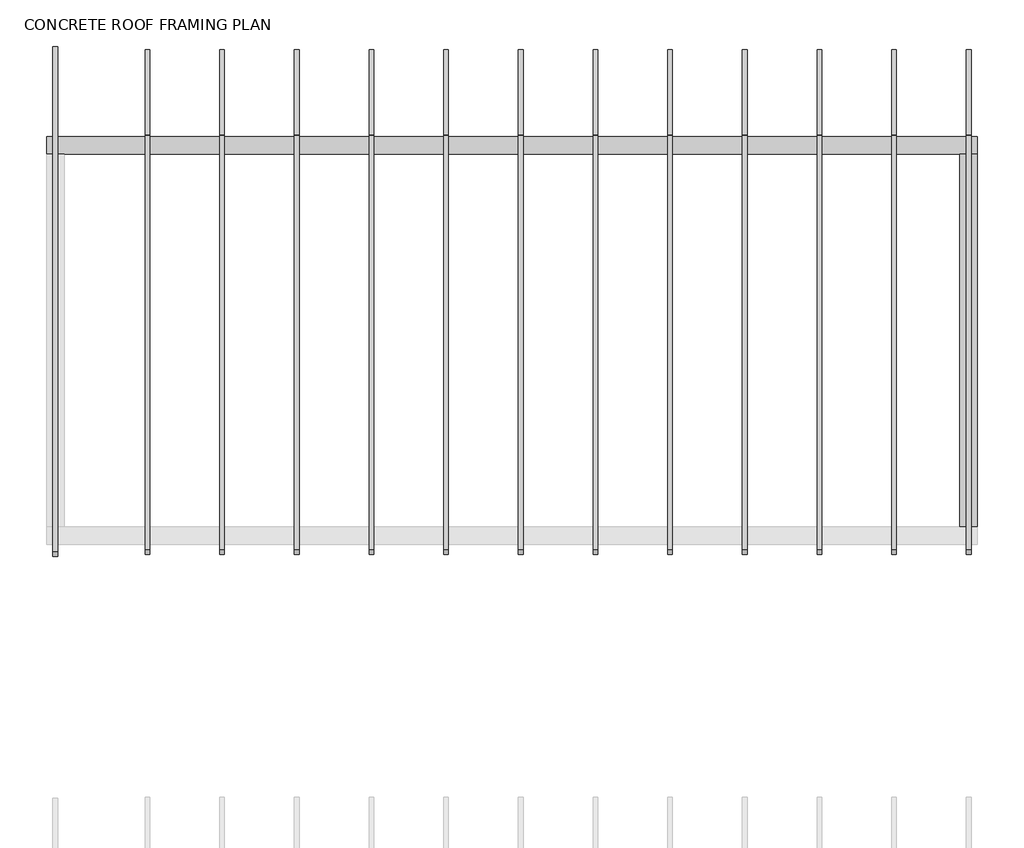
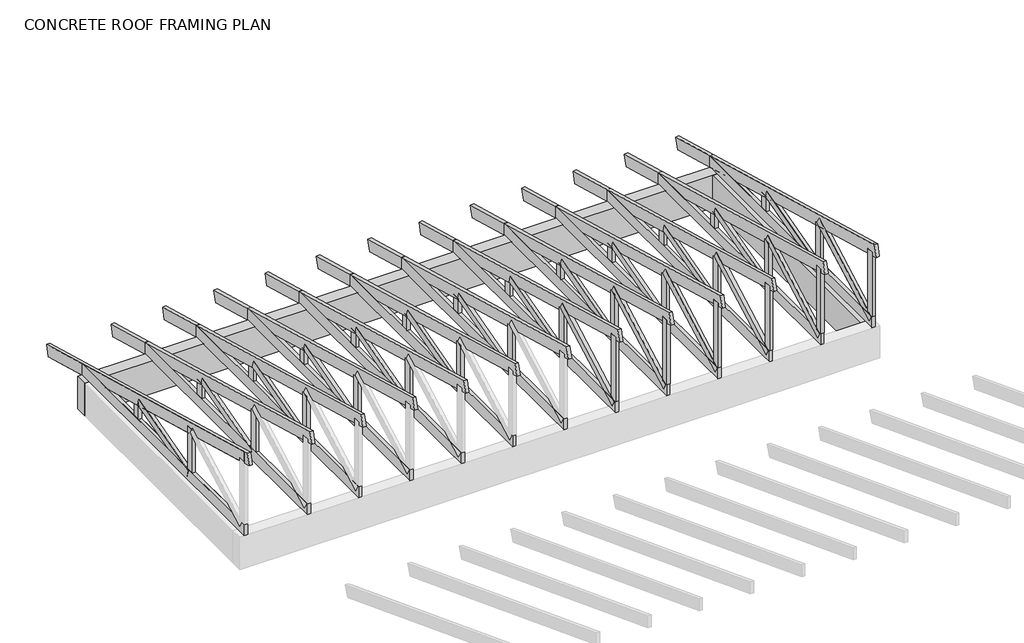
# One storey, part 6 of 6: 79 beams.
"""IFC4 building model written with IfcOpenShell, lengths in millimetres."""

from ifc_helpers import new_model, si_unit, frame, origin, place, context, project, spatial, polyline, outline, extrude, faceted_brep, element, save

model = new_model("IFC4")

# Units and contexts
model_context = context("Model", 3, world=origin())
ifc_project = project(units=[si_unit("LENGTHUNIT", "METRE", prefix="MILLI")], contexts=[model_context])

# Site, building, storey
site = spatial("IfcSite", under=ifc_project)
building = spatial("IfcBuilding", under=site)
storey = spatial("IfcBuildingStorey", under=building, Name="CONCRETE ROOF FRAMING PLAN", Elevation=3048.0)

# Beams
placement = place(None, origin())
element("IfcBeam", 1, ObjectType="Concrete-Rectangular Beam : 5 5/8 x 16", at=placement, inside=storey, context=model_context, shape_type="Brep", body=[
    faceted_brep([(9.525, 12474.1132667, 2438.4), (9.525, 12331.2382667, 2438.4), (152.4, 12331.2382667, 2438.4), (7467.6, 12331.2382667, 2438.4), (7610.475, 12331.2382667, 2438.4), (7610.475, 12474.1132667, 2438.4), (9.525, 12474.1132667, 2032.0), (7610.475, 12474.1132667, 2032.0), (7467.6, 12474.1132667, 2032.0), (9.525, 12331.2382667, 2032.0), (7610.475, 12331.2382667, 2032.0), (7467.6, 12331.2382667, 2032.0), (152.4, 12331.2382667, 2032.0)], [[[0, 1, 2, 3, 4, 5]], [[6, 0, 5, 7, 8]], [[9, 6, 8, 7, 10, 11, 12]], [[1, 9, 12, 11, 10, 4, 3, 2]], [[1, 0, 6, 9]], [[5, 4, 10, 7]]]),
])
element("IfcBeam", 2, ObjectType="Concrete-Rectangular Beam : 5 5/8 x 16", at=placement, inside=storey, context=model_context, shape_type="Brep", body=[
    faceted_brep([(7467.6, 9283.2382667, 2438.4), (7610.475, 9283.2382667, 2438.4), (7610.475, 12331.2382667, 2438.4), (7467.6, 12331.2382667, 2438.4), (7467.6, 9283.2382667, 2032.0), (7467.6, 9283.2382667, 2032.4732556), (7467.6, 12331.2382667, 2032.0), (7610.475, 9283.2382667, 2032.0), (7610.475, 12331.2382667, 2032.0)], [[[0, 1, 2, 3]], [[4, 5, 0, 3, 6]], [[7, 4, 6, 8]], [[1, 7, 8, 2]], [[0, 5, 4, 7, 1]], [[3, 2, 8, 6]]]),
])
element("IfcBeam", 3, ObjectType="Dimension Lumber : 2x4", at=placement, inside=storey, context=model_context, shape_type="SweptSolid", body=[
    extrude(outline(polyline([(61.9125, 10300.2966), (100.0125, 10300.2966), (100.0125, 10211.3966), (61.9125, 10211.3966), (61.9125, 10300.2966)])), frame((0.0, 0.0, 2578.1), z_axis=(0.0, 0.0, 1.0), x_axis=(1.0, 0.0, 0.0)), (0.0, 0.0, 1.0), 539.75),
    extrude(outline(polyline([(10300.2966, 3033.195195), (10300.2966, 2578.1), (10211.3966, 2578.1), (10211.3966, 3057.6257293), (10300.2966, 3033.195195)])), frame((61.9125, 0.0, 0.0), z_axis=(1.0, 0.0, 0.0), x_axis=(0.0, 1.0, 0.0)), (0.0, 0.0, 1.0), 38.1),
])
element("IfcBeam", 4, ObjectType="Dimension Lumber : 2x4", at=placement, inside=storey, context=model_context, shape_type="SweptSolid", body=[
    extrude(outline(polyline([(61.9125, 11409.4299334), (100.0125, 11409.4299334), (100.0125, 11320.5299334), (61.9125, 11320.5299334), (61.9125, 11409.4299334)])), frame((0.0, 0.0, 2578.1), z_axis=(0.0, 0.0, 1.0), x_axis=(1.0, 0.0, 0.0)), (0.0, 0.0, 1.0), 216.661743),
    extrude(outline(polyline([(11409.4299334, 2728.395195), (11409.4299334, 2578.1), (11320.5299334, 2578.1), (11320.5299334, 2752.8257293), (11409.4299334, 2728.395195)])), frame((61.9125, 0.0, 0.0), z_axis=(1.0, 0.0, 0.0), x_axis=(0.0, 1.0, 0.0)), (0.0, 0.0, 1.0), 38.1),
])
element("IfcBeam", 5, ObjectType="Dimension Lumber : 2x4", at=placement, inside=storey, context=model_context, shape_type="SweptSolid", body=[
    extrude(outline(polyline([(0.0, 38.1), (1058.0562801, 38.1), (1058.0562801, 0.0), (0.0, 0.0), (0.0, 38.1)])), frame((61.9125, 11332.3085344, 2757.9737126), z_axis=(0.0, -0.26498539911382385, 0.964252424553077), x_axis=(0.0, -0.964252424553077, -0.26498539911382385)), (0.0, 0.0, 1.0), 88.9),
    extrude(outline(polyline([(11317.0527644, 2753.7812872), (10312.075201, 2477.6042469), (10288.517999, 2563.3262874), (11149.307673, 2799.8791749), (11317.0527644, 2753.7812872)])), frame((61.9125, 0.0, 0.0), z_axis=(1.0, 0.0, 0.0), x_axis=(0.0, 1.0, 0.0)), (0.0, 0.0, 1.0), 38.1),
    extrude(outline(polyline([(11317.0527644, 2753.7812872), (10677.7680803, 2578.1), (10342.2778975, 2578.1), (11149.307673, 2799.8791749), (11317.0527644, 2753.7812872)])), frame((61.9125, 0.0, 0.0), z_axis=(1.0, 0.0, 0.0), x_axis=(0.0, 1.0, 0.0)), (0.0, 0.0, 1.0), 38.1),
])
element("IfcBeam", 6, ObjectType="Dimension Lumber : 2x4", at=placement, inside=storey, context=model_context, shape_type="SweptSolid", body=[
    extrude(outline(polyline([(7519.9875, 9229.2632667), (7558.0875, 9229.2632667), (7558.0875, 9140.3632667), (7519.9875, 9140.3632667), (7519.9875, 9229.2632667)])), frame((0.0, 0.0, 2578.1), z_axis=(0.0, 0.0, 1.0), x_axis=(1.0, 0.0, 0.0)), (0.0, 0.0, 1.0), 810.1628409),
    extrude(outline(polyline([(9229.2632667, 3327.524966), (9229.2632667, 2578.1), (9140.3632667, 2578.1), (9140.3632667, 3351.9555003), (9229.2632667, 3327.524966)])), frame((7519.9875, 0.0, 0.0), z_axis=(1.0, 0.0, 0.0), x_axis=(0.0, 1.0, 0.0)), (0.0, 0.0, 1.0), 38.1),
])
element("IfcBeam", 7, ObjectType="Dimension Lumber : 2x4", at=placement, inside=storey, context=model_context, shape_type="SweptSolid", body=[
    extrude(outline(polyline([(7519.9875, 10300.2966), (7558.0875, 10300.2966), (7558.0875, 10211.3966), (7519.9875, 10211.3966), (7519.9875, 10300.2966)])), frame((0.0, 0.0, 2578.1), z_axis=(0.0, 0.0, 1.0), x_axis=(1.0, 0.0, 0.0)), (0.0, 0.0, 1.0), 489.0286681),
    extrude(outline(polyline([(10300.2966, 3033.195195), (10300.2966, 2578.1), (10211.3966, 2578.1), (10211.3966, 3057.6257293), (10300.2966, 3033.195195)])), frame((7519.9875, 0.0, 0.0), z_axis=(1.0, 0.0, 0.0), x_axis=(0.0, 1.0, 0.0)), (0.0, 0.0, 1.0), 38.1),
])
element("IfcBeam", 8, ObjectType="Dimension Lumber : 2x4", at=placement, inside=storey, context=model_context, shape_type="SweptSolid", body=[
    extrude(outline(polyline([(7519.9875, 11409.4299334), (7558.0875, 11409.4299334), (7558.0875, 11320.5299334), (7519.9875, 11320.5299334), (7519.9875, 11409.4299334)])), frame((0.0, 0.0, 2578.1), z_axis=(0.0, 0.0, 1.0), x_axis=(1.0, 0.0, 0.0)), (0.0, 0.0, 1.0), 188.8521123),
    extrude(outline(polyline([(11409.4299334, 2728.395195), (11409.4299334, 2578.1), (11320.5299334, 2578.1), (11320.5299334, 2752.8257293), (11409.4299334, 2728.395195)])), frame((7519.9875, 0.0, 0.0), z_axis=(1.0, 0.0, 0.0), x_axis=(0.0, 1.0, 0.0)), (0.0, 0.0, 1.0), 38.1),
])
element("IfcBeam", 9, ObjectType="Dimension Lumber : 2x4", at=placement, inside=storey, context=model_context, shape_type="SweptSolid", body=[
    extrude(outline(polyline([(0.0, 38.1), (1222.1425684, 38.1), (1222.1425684, 0.0), (0.0, 0.0), (0.0, 38.1)])), frame((7519.9875, 10277.2564726, 3078.8959263), z_axis=(0.0, -0.48166192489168, 0.876357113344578), x_axis=(0.0, -0.876357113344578, -0.48166192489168)), (0.0, 0.0, 1.0), 88.9),
    extrude(outline(polyline([(10277.2564726, 3078.8959263), (9366.0861067, 2578.1), (9181.5168156, 2578.1), (10234.4367275, 3156.8040737), (10277.2564726, 3078.8959263)])), frame((7519.9875, 0.0, 0.0), z_axis=(1.0, 0.0, 0.0), x_axis=(0.0, 1.0, 0.0)), (0.0, 0.0, 1.0), 38.1),
    extrude(outline(polyline([(10229.5032206, 3052.6498641), (9366.0861067, 2578.1), (9181.5168156, 2578.1), (10106.4570266, 3086.4640854), (10229.5032206, 3052.6498641)])), frame((7519.9875, 0.0, 0.0), z_axis=(1.0, 0.0, 0.0), x_axis=(0.0, 1.0, 0.0)), (0.0, 0.0, 1.0), 38.1),
])
element("IfcBeam", 10, ObjectType="Dimension Lumber : 2x4", at=placement, inside=storey, context=model_context, shape_type="SweptSolid", body=[
    extrude(outline(polyline([(0.0, 38.1), (1058.0562801, 38.1), (1058.0562801, 0.0), (0.0, 0.0), (0.0, 38.1)])), frame((7519.9875, 11332.3085344, 2757.9737126), z_axis=(0.0, -0.26498539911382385, 0.964252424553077), x_axis=(0.0, -0.964252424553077, -0.26498539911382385)), (0.0, 0.0, 1.0), 88.9),
    extrude(outline(polyline([(11332.3085344, 2757.9737126), (10677.7680803, 2578.1), (10342.2778975, 2578.1), (11308.7513324, 2843.6957531), (11332.3085344, 2757.9737126)])), frame((7519.9875, 0.0, 0.0), z_axis=(1.0, 0.0, 0.0), x_axis=(0.0, 1.0, 0.0)), (0.0, 0.0, 1.0), 38.1),
    extrude(outline(polyline([(11317.0527644, 2753.7812872), (10677.7680803, 2578.1), (10342.2778975, 2578.1), (11149.307673, 2799.8791749), (11317.0527644, 2753.7812872)])), frame((7519.9875, 0.0, 0.0), z_axis=(1.0, 0.0, 0.0), x_axis=(0.0, 1.0, 0.0)), (0.0, 0.0, 1.0), 38.1),
])
element("IfcBeam", 11, ObjectType="Dimension Lumber : 2x4", at=placement, inside=storey, context=model_context, shape_type="SweptSolid", body=[
    extrude(outline(polyline([(6910.3875, 9229.2632667), (6948.4875, 9229.2632667), (6948.4875, 9140.3632667), (6910.3875, 9140.3632667), (6910.3875, 9229.2632667)])), frame((0.0, 0.0, 2578.1), z_axis=(0.0, 0.0, 1.0), x_axis=(1.0, 0.0, 0.0)), (0.0, 0.0, 1.0), 810.1628409),
])
element("IfcBeam", 12, ObjectType="Dimension Lumber : 2x4", at=placement, inside=storey, context=model_context, shape_type="SweptSolid", body=[
    extrude(outline(polyline([(6910.3875, 10300.2966), (6948.4875, 10300.2966), (6948.4875, 10211.3966), (6910.3875, 10211.3966), (6910.3875, 10300.2966)])), frame((0.0, 0.0, 2578.1), z_axis=(0.0, 0.0, 1.0), x_axis=(1.0, 0.0, 0.0)), (0.0, 0.0, 1.0), 489.0286681),
])
element("IfcBeam", 13, ObjectType="Dimension Lumber : 2x4", at=placement, inside=storey, context=model_context, shape_type="SweptSolid", body=[
    extrude(outline(polyline([(6910.3875, 11409.4299334), (6948.4875, 11409.4299334), (6948.4875, 11320.5299334), (6910.3875, 11320.5299334), (6910.3875, 11409.4299334)])), frame((0.0, 0.0, 2578.1), z_axis=(0.0, 0.0, 1.0), x_axis=(1.0, 0.0, 0.0)), (0.0, 0.0, 1.0), 188.8521123),
])
element("IfcBeam", 14, ObjectType="Dimension Lumber : 2x4", at=placement, inside=storey, context=model_context, shape_type="SweptSolid", body=[
    extrude(outline(polyline([(0.0, 38.1), (1222.1425684, 38.1), (1222.1425684, 0.0), (0.0, 0.0), (0.0, 38.1)])), frame((6910.3875, 10277.2564726, 3078.8959263), z_axis=(0.0, -0.48166192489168, 0.876357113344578), x_axis=(0.0, -0.876357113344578, -0.48166192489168)), (0.0, 0.0, 1.0), 88.9),
])
element("IfcBeam", 15, ObjectType="Dimension Lumber : 2x4", at=placement, inside=storey, context=model_context, shape_type="SweptSolid", body=[
    extrude(outline(polyline([(0.0, 38.1), (1058.0562801, 38.1), (1058.0562801, 0.0), (0.0, 0.0), (0.0, 38.1)])), frame((6910.3875, 11332.3085344, 2757.9737126), z_axis=(0.0, -0.26498539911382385, 0.964252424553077), x_axis=(0.0, -0.964252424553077, -0.26498539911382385)), (0.0, 0.0, 1.0), 88.9),
])
element("IfcBeam", 16, ObjectType="Dimension Lumber : 2x4", at=placement, inside=storey, context=model_context, shape_type="SweptSolid", body=[
    extrude(outline(polyline([(6300.7875, 9229.2632667), (6338.8875, 9229.2632667), (6338.8875, 9140.3632667), (6300.7875, 9140.3632667), (6300.7875, 9229.2632667)])), frame((0.0, 0.0, 2578.1), z_axis=(0.0, 0.0, 1.0), x_axis=(1.0, 0.0, 0.0)), (0.0, 0.0, 1.0), 810.1628409),
])
element("IfcBeam", 17, ObjectType="Dimension Lumber : 2x4", at=placement, inside=storey, context=model_context, shape_type="SweptSolid", body=[
    extrude(outline(polyline([(6300.7875, 10300.2966), (6338.8875, 10300.2966), (6338.8875, 10211.3966), (6300.7875, 10211.3966), (6300.7875, 10300.2966)])), frame((0.0, 0.0, 2578.1), z_axis=(0.0, 0.0, 1.0), x_axis=(1.0, 0.0, 0.0)), (0.0, 0.0, 1.0), 489.0286681),
])
element("IfcBeam", 18, ObjectType="Dimension Lumber : 2x4", at=placement, inside=storey, context=model_context, shape_type="SweptSolid", body=[
    extrude(outline(polyline([(6300.7875, 11409.4299334), (6338.8875, 11409.4299334), (6338.8875, 11320.5299334), (6300.7875, 11320.5299334), (6300.7875, 11409.4299334)])), frame((0.0, 0.0, 2578.1), z_axis=(0.0, 0.0, 1.0), x_axis=(1.0, 0.0, 0.0)), (0.0, 0.0, 1.0), 188.8521123),
])
element("IfcBeam", 19, ObjectType="Dimension Lumber : 2x4", at=placement, inside=storey, context=model_context, shape_type="SweptSolid", body=[
    extrude(outline(polyline([(0.0, 38.1), (1222.1425684, 38.1), (1222.1425684, 0.0), (0.0, 0.0), (0.0, 38.1)])), frame((6300.7875, 10277.2564726, 3078.8959263), z_axis=(0.0, -0.48166192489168, 0.876357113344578), x_axis=(0.0, -0.876357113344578, -0.48166192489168)), (0.0, 0.0, 1.0), 88.9),
])
element("IfcBeam", 20, ObjectType="Dimension Lumber : 2x4", at=placement, inside=storey, context=model_context, shape_type="SweptSolid", body=[
    extrude(outline(polyline([(0.0, 38.1), (1058.0562801, 38.1), (1058.0562801, 0.0), (0.0, 0.0), (0.0, 38.1)])), frame((6300.7875, 11332.3085344, 2757.9737126), z_axis=(0.0, -0.26498539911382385, 0.964252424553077), x_axis=(0.0, -0.964252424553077, -0.26498539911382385)), (0.0, 0.0, 1.0), 88.9),
])
element("IfcBeam", 21, ObjectType="Dimension Lumber : 2x4", at=placement, inside=storey, context=model_context, shape_type="SweptSolid", body=[
    extrude(outline(polyline([(5691.1875, 9229.2632667), (5729.2875, 9229.2632667), (5729.2875, 9140.3632667), (5691.1875, 9140.3632667), (5691.1875, 9229.2632667)])), frame((0.0, 0.0, 2578.1), z_axis=(0.0, 0.0, 1.0), x_axis=(1.0, 0.0, 0.0)), (0.0, 0.0, 1.0), 810.1628409),
])
element("IfcBeam", 22, ObjectType="Dimension Lumber : 2x4", at=placement, inside=storey, context=model_context, shape_type="SweptSolid", body=[
    extrude(outline(polyline([(5691.1875, 10300.2966), (5729.2875, 10300.2966), (5729.2875, 10211.3966), (5691.1875, 10211.3966), (5691.1875, 10300.2966)])), frame((0.0, 0.0, 2578.1), z_axis=(0.0, 0.0, 1.0), x_axis=(1.0, 0.0, 0.0)), (0.0, 0.0, 1.0), 489.0286681),
])
element("IfcBeam", 23, ObjectType="Dimension Lumber : 2x4", at=placement, inside=storey, context=model_context, shape_type="SweptSolid", body=[
    extrude(outline(polyline([(5691.1875, 11409.4299334), (5729.2875, 11409.4299334), (5729.2875, 11320.5299334), (5691.1875, 11320.5299334), (5691.1875, 11409.4299334)])), frame((0.0, 0.0, 2578.1), z_axis=(0.0, 0.0, 1.0), x_axis=(1.0, 0.0, 0.0)), (0.0, 0.0, 1.0), 188.8521123),
])
element("IfcBeam", 24, ObjectType="Dimension Lumber : 2x4", at=placement, inside=storey, context=model_context, shape_type="SweptSolid", body=[
    extrude(outline(polyline([(0.0, 38.1), (1222.1425684, 38.1), (1222.1425684, 0.0), (0.0, 0.0), (0.0, 38.1)])), frame((5691.1875, 10277.2564726, 3078.8959263), z_axis=(0.0, -0.48166192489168, 0.876357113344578), x_axis=(0.0, -0.876357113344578, -0.48166192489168)), (0.0, 0.0, 1.0), 88.9),
])
element("IfcBeam", 25, ObjectType="Dimension Lumber : 2x4", at=placement, inside=storey, context=model_context, shape_type="SweptSolid", body=[
    extrude(outline(polyline([(0.0, 38.1), (1058.0562801, 38.1), (1058.0562801, 0.0), (0.0, 0.0), (0.0, 38.1)])), frame((5691.1875, 11332.3085344, 2757.9737126), z_axis=(0.0, -0.26498539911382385, 0.964252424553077), x_axis=(0.0, -0.964252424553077, -0.26498539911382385)), (0.0, 0.0, 1.0), 88.9),
])
element("IfcBeam", 26, ObjectType="Dimension Lumber : 2x4", at=placement, inside=storey, context=model_context, shape_type="SweptSolid", body=[
    extrude(outline(polyline([(5081.5875, 9229.2632667), (5119.6875, 9229.2632667), (5119.6875, 9140.3632667), (5081.5875, 9140.3632667), (5081.5875, 9229.2632667)])), frame((0.0, 0.0, 2578.1), z_axis=(0.0, 0.0, 1.0), x_axis=(1.0, 0.0, 0.0)), (0.0, 0.0, 1.0), 810.1628409),
])
element("IfcBeam", 27, ObjectType="Dimension Lumber : 2x4", at=placement, inside=storey, context=model_context, shape_type="SweptSolid", body=[
    extrude(outline(polyline([(5081.5875, 10300.2966), (5119.6875, 10300.2966), (5119.6875, 10211.3966), (5081.5875, 10211.3966), (5081.5875, 10300.2966)])), frame((0.0, 0.0, 2578.1), z_axis=(0.0, 0.0, 1.0), x_axis=(1.0, 0.0, 0.0)), (0.0, 0.0, 1.0), 489.0286681),
])
element("IfcBeam", 28, ObjectType="Dimension Lumber : 2x4", at=placement, inside=storey, context=model_context, shape_type="SweptSolid", body=[
    extrude(outline(polyline([(5081.5875, 11409.4299334), (5119.6875, 11409.4299334), (5119.6875, 11320.5299334), (5081.5875, 11320.5299334), (5081.5875, 11409.4299334)])), frame((0.0, 0.0, 2578.1), z_axis=(0.0, 0.0, 1.0), x_axis=(1.0, 0.0, 0.0)), (0.0, 0.0, 1.0), 188.8521123),
])
element("IfcBeam", 29, ObjectType="Dimension Lumber : 2x4", at=placement, inside=storey, context=model_context, shape_type="SweptSolid", body=[
    extrude(outline(polyline([(0.0, 38.1), (1222.1425684, 38.1), (1222.1425684, 0.0), (0.0, 0.0), (0.0, 38.1)])), frame((5081.5875, 10277.2564726, 3078.8959263), z_axis=(0.0, -0.48166192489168, 0.876357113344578), x_axis=(0.0, -0.876357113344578, -0.48166192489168)), (0.0, 0.0, 1.0), 88.9),
])
element("IfcBeam", 30, ObjectType="Dimension Lumber : 2x4", at=placement, inside=storey, context=model_context, shape_type="SweptSolid", body=[
    extrude(outline(polyline([(0.0, 38.1), (1058.0562801, 38.1), (1058.0562801, 0.0), (0.0, 0.0), (0.0, 38.1)])), frame((5081.5875, 11332.3085344, 2757.9737126), z_axis=(0.0, -0.26498539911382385, 0.964252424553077), x_axis=(0.0, -0.964252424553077, -0.26498539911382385)), (0.0, 0.0, 1.0), 88.9),
])
element("IfcBeam", 31, ObjectType="Dimension Lumber : 2x4", at=placement, inside=storey, context=model_context, shape_type="SweptSolid", body=[
    extrude(outline(polyline([(4471.9875, 9229.2632667), (4510.0875, 9229.2632667), (4510.0875, 9140.3632667), (4471.9875, 9140.3632667), (4471.9875, 9229.2632667)])), frame((0.0, 0.0, 2578.1), z_axis=(0.0, 0.0, 1.0), x_axis=(1.0, 0.0, 0.0)), (0.0, 0.0, 1.0), 810.1628409),
])
element("IfcBeam", 32, ObjectType="Dimension Lumber : 2x4", at=placement, inside=storey, context=model_context, shape_type="SweptSolid", body=[
    extrude(outline(polyline([(4471.9875, 10300.2966), (4510.0875, 10300.2966), (4510.0875, 10211.3966), (4471.9875, 10211.3966), (4471.9875, 10300.2966)])), frame((0.0, 0.0, 2578.1), z_axis=(0.0, 0.0, 1.0), x_axis=(1.0, 0.0, 0.0)), (0.0, 0.0, 1.0), 489.0286681),
])
element("IfcBeam", 33, ObjectType="Dimension Lumber : 2x4", at=placement, inside=storey, context=model_context, shape_type="SweptSolid", body=[
    extrude(outline(polyline([(4471.9875, 11409.4299334), (4510.0875, 11409.4299334), (4510.0875, 11320.5299334), (4471.9875, 11320.5299334), (4471.9875, 11409.4299334)])), frame((0.0, 0.0, 2578.1), z_axis=(0.0, 0.0, 1.0), x_axis=(1.0, 0.0, 0.0)), (0.0, 0.0, 1.0), 188.8521123),
])
element("IfcBeam", 34, ObjectType="Dimension Lumber : 2x4", at=placement, inside=storey, context=model_context, shape_type="SweptSolid", body=[
    extrude(outline(polyline([(0.0, 38.1), (1222.1425684, 38.1), (1222.1425684, 0.0), (0.0, 0.0), (0.0, 38.1)])), frame((4471.9875, 10277.2564726, 3078.8959263), z_axis=(0.0, -0.48166192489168, 0.876357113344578), x_axis=(0.0, -0.876357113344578, -0.48166192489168)), (0.0, 0.0, 1.0), 88.9),
])
element("IfcBeam", 35, ObjectType="Dimension Lumber : 2x4", at=placement, inside=storey, context=model_context, shape_type="SweptSolid", body=[
    extrude(outline(polyline([(0.0, 38.1), (1058.0562801, 38.1), (1058.0562801, 0.0), (0.0, 0.0), (0.0, 38.1)])), frame((4471.9875, 11332.3085344, 2757.9737126), z_axis=(0.0, -0.26498539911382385, 0.964252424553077), x_axis=(0.0, -0.964252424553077, -0.26498539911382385)), (0.0, 0.0, 1.0), 88.9),
])
element("IfcBeam", 36, ObjectType="Dimension Lumber : 2x4", at=placement, inside=storey, context=model_context, shape_type="SweptSolid", body=[
    extrude(outline(polyline([(3862.3875, 10300.2966), (3900.4875, 10300.2966), (3900.4875, 10211.3966), (3862.3875, 10211.3966), (3862.3875, 10300.2966)])), frame((0.0, 0.0, 2578.1), z_axis=(0.0, 0.0, 1.0), x_axis=(1.0, 0.0, 0.0)), (0.0, 0.0, 1.0), 489.0286681),
])
element("IfcBeam", 37, ObjectType="Dimension Lumber : 2x4", at=placement, inside=storey, context=model_context, shape_type="SweptSolid", body=[
    extrude(outline(polyline([(3862.3875, 11409.4299334), (3900.4875, 11409.4299334), (3900.4875, 11320.5299334), (3862.3875, 11320.5299334), (3862.3875, 11409.4299334)])), frame((0.0, 0.0, 2578.1), z_axis=(0.0, 0.0, 1.0), x_axis=(1.0, 0.0, 0.0)), (0.0, 0.0, 1.0), 188.8521123),
])
element("IfcBeam", 38, ObjectType="Dimension Lumber : 2x4", at=placement, inside=storey, context=model_context, shape_type="SweptSolid", body=[
    extrude(outline(polyline([(0.0, 38.1), (1058.0562801, 38.1), (1058.0562801, 0.0), (0.0, 0.0), (0.0, 38.1)])), frame((3862.3875, 11332.3085344, 2757.9737126), z_axis=(0.0, -0.26498539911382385, 0.964252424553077), x_axis=(0.0, -0.964252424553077, -0.26498539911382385)), (0.0, 0.0, 1.0), 88.9),
])
element("IfcBeam", 39, ObjectType="Dimension Lumber : 2x4", at=placement, inside=storey, context=model_context, shape_type="SweptSolid", body=[
    extrude(outline(polyline([(3252.7875, 10300.2966), (3290.8875, 10300.2966), (3290.8875, 10211.3966), (3252.7875, 10211.3966), (3252.7875, 10300.2966)])), frame((0.0, 0.0, 2578.1), z_axis=(0.0, 0.0, 1.0), x_axis=(1.0, 0.0, 0.0)), (0.0, 0.0, 1.0), 489.0286681),
])
element("IfcBeam", 40, ObjectType="Dimension Lumber : 2x4", at=placement, inside=storey, context=model_context, shape_type="SweptSolid", body=[
    extrude(outline(polyline([(3252.7875, 11409.4299334), (3290.8875, 11409.4299334), (3290.8875, 11320.5299334), (3252.7875, 11320.5299334), (3252.7875, 11409.4299334)])), frame((0.0, 0.0, 2578.1), z_axis=(0.0, 0.0, 1.0), x_axis=(1.0, 0.0, 0.0)), (0.0, 0.0, 1.0), 188.8521123),
])
element("IfcBeam", 41, ObjectType="Dimension Lumber : 2x4", at=placement, inside=storey, context=model_context, shape_type="SweptSolid", body=[
    extrude(outline(polyline([(0.0, 38.1), (1058.0562801, 38.1), (1058.0562801, 0.0), (0.0, 0.0), (0.0, 38.1)])), frame((3252.7875, 11332.3085344, 2757.9737126), z_axis=(0.0, -0.26498539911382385, 0.964252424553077), x_axis=(0.0, -0.964252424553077, -0.26498539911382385)), (0.0, 0.0, 1.0), 88.9),
])
element("IfcBeam", 42, ObjectType="Dimension Lumber : 2x4", at=placement, inside=storey, context=model_context, shape_type="SweptSolid", body=[
    extrude(outline(polyline([(2643.1875, 10300.2966), (2681.2875, 10300.2966), (2681.2875, 10211.3966), (2643.1875, 10211.3966), (2643.1875, 10300.2966)])), frame((0.0, 0.0, 2578.1), z_axis=(0.0, 0.0, 1.0), x_axis=(1.0, 0.0, 0.0)), (0.0, 0.0, 1.0), 489.0286681),
])
element("IfcBeam", 43, ObjectType="Dimension Lumber : 2x4", at=placement, inside=storey, context=model_context, shape_type="SweptSolid", body=[
    extrude(outline(polyline([(2643.1875, 11409.4299334), (2681.2875, 11409.4299334), (2681.2875, 11320.5299334), (2643.1875, 11320.5299334), (2643.1875, 11409.4299334)])), frame((0.0, 0.0, 2578.1), z_axis=(0.0, 0.0, 1.0), x_axis=(1.0, 0.0, 0.0)), (0.0, 0.0, 1.0), 188.8521123),
])
element("IfcBeam", 44, ObjectType="Dimension Lumber : 2x4", at=placement, inside=storey, context=model_context, shape_type="SweptSolid", body=[
    extrude(outline(polyline([(0.0, 38.1), (1058.0562801, 38.1), (1058.0562801, 0.0), (0.0, 0.0), (0.0, 38.1)])), frame((2643.1875, 11332.3085344, 2757.9737126), z_axis=(0.0, -0.26498539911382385, 0.964252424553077), x_axis=(0.0, -0.964252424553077, -0.26498539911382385)), (0.0, 0.0, 1.0), 88.9),
])
element("IfcBeam", 45, ObjectType="Dimension Lumber : 2x4", at=placement, inside=storey, context=model_context, shape_type="SweptSolid", body=[
    extrude(outline(polyline([(2033.5875, 10300.2966), (2071.6875, 10300.2966), (2071.6875, 10211.3966), (2033.5875, 10211.3966), (2033.5875, 10300.2966)])), frame((0.0, 0.0, 2578.1), z_axis=(0.0, 0.0, 1.0), x_axis=(1.0, 0.0, 0.0)), (0.0, 0.0, 1.0), 489.0286681),
])
element("IfcBeam", 46, ObjectType="Dimension Lumber : 2x4", at=placement, inside=storey, context=model_context, shape_type="SweptSolid", body=[
    extrude(outline(polyline([(2033.5875, 11409.4299334), (2071.6875, 11409.4299334), (2071.6875, 11320.5299334), (2033.5875, 11320.5299334), (2033.5875, 11409.4299334)])), frame((0.0, 0.0, 2578.1), z_axis=(0.0, 0.0, 1.0), x_axis=(1.0, 0.0, 0.0)), (0.0, 0.0, 1.0), 188.8521123),
])
element("IfcBeam", 47, ObjectType="Dimension Lumber : 2x4", at=placement, inside=storey, context=model_context, shape_type="SweptSolid", body=[
    extrude(outline(polyline([(0.0, 38.1), (1058.0562801, 38.1), (1058.0562801, 0.0), (0.0, 0.0), (0.0, 38.1)])), frame((2033.5875, 11332.3085344, 2757.9737126), z_axis=(0.0, -0.26498539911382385, 0.964252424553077), x_axis=(0.0, -0.964252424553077, -0.26498539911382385)), (0.0, 0.0, 1.0), 88.9),
])
element("IfcBeam", 48, ObjectType="Dimension Lumber : 2x4", at=placement, inside=storey, context=model_context, shape_type="SweptSolid", body=[
    extrude(outline(polyline([(1423.9875, 10300.2966), (1462.0875, 10300.2966), (1462.0875, 10211.3966), (1423.9875, 10211.3966), (1423.9875, 10300.2966)])), frame((0.0, 0.0, 2578.1), z_axis=(0.0, 0.0, 1.0), x_axis=(1.0, 0.0, 0.0)), (0.0, 0.0, 1.0), 489.0286681),
])
element("IfcBeam", 49, ObjectType="Dimension Lumber : 2x4", at=placement, inside=storey, context=model_context, shape_type="SweptSolid", body=[
    extrude(outline(polyline([(1423.9875, 11409.4299334), (1462.0875, 11409.4299334), (1462.0875, 11320.5299334), (1423.9875, 11320.5299334), (1423.9875, 11409.4299334)])), frame((0.0, 0.0, 2578.1), z_axis=(0.0, 0.0, 1.0), x_axis=(1.0, 0.0, 0.0)), (0.0, 0.0, 1.0), 188.8521123),
])
element("IfcBeam", 50, ObjectType="Dimension Lumber : 2x4", at=placement, inside=storey, context=model_context, shape_type="SweptSolid", body=[
    extrude(outline(polyline([(0.0, 38.1), (1058.0562801, 38.1), (1058.0562801, 0.0), (0.0, 0.0), (0.0, 38.1)])), frame((1423.9875, 11332.3085344, 2757.9737126), z_axis=(0.0, -0.26498539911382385, 0.964252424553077), x_axis=(0.0, -0.964252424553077, -0.26498539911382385)), (0.0, 0.0, 1.0), 88.9),
])
element("IfcBeam", 51, ObjectType="Dimension Lumber : 2x4", at=placement, inside=storey, context=model_context, shape_type="SweptSolid", body=[
    extrude(outline(polyline([(814.3875, 10300.2966), (852.4875, 10300.2966), (852.4875, 10211.3966), (814.3875, 10211.3966), (814.3875, 10300.2966)])), frame((0.0, 0.0, 2578.1), z_axis=(0.0, 0.0, 1.0), x_axis=(1.0, 0.0, 0.0)), (0.0, 0.0, 1.0), 489.0286681),
])
element("IfcBeam", 52, ObjectType="Dimension Lumber : 2x4", at=placement, inside=storey, context=model_context, shape_type="SweptSolid", body=[
    extrude(outline(polyline([(814.3875, 11409.4299334), (852.4875, 11409.4299334), (852.4875, 11320.5299334), (814.3875, 11320.5299334), (814.3875, 11409.4299334)])), frame((0.0, 0.0, 2578.1), z_axis=(0.0, 0.0, 1.0), x_axis=(1.0, 0.0, 0.0)), (0.0, 0.0, 1.0), 188.8521123),
])
element("IfcBeam", 53, ObjectType="Dimension Lumber : 2x4", at=placement, inside=storey, context=model_context, shape_type="SweptSolid", body=[
    extrude(outline(polyline([(0.0, 38.1), (1058.0562801, 38.1), (1058.0562801, 0.0), (0.0, 0.0), (0.0, 38.1)])), frame((814.3875, 11332.3085344, 2757.9737126), z_axis=(0.0, -0.26498539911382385, 0.964252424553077), x_axis=(0.0, -0.964252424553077, -0.26498539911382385)), (0.0, 0.0, 1.0), 88.9),
])
element("IfcBeam", 54, ObjectType="Dimension Lumber : 2x6", at=placement, inside=storey, context=model_context, shape_type="SweptSolid", body=[
    extrude(outline(polyline([(100.0125, 12474.1132667), (100.0125, 9140.3632667), (61.9125, 9140.3632667), (61.9125, 12474.1132667), (100.0125, 12474.1132667)])), frame((0.0, 0.0, 2438.4), z_axis=(0.0, 0.0, 1.0), x_axis=(1.0, 0.0, 0.0)), (0.0, 0.0, 1.0), 139.7),
    extrude(outline(polyline([(12464.6902262, 2438.4), (9140.3632667, 2438.4), (9140.3632667, 2578.1), (11956.3374484, 2578.1), (12464.6902262, 2438.4)])), frame((61.9125, 0.0, 0.0), z_axis=(1.0, 0.0, 0.0), x_axis=(0.0, 1.0, 0.0)), (0.0, 0.0, 1.0), 38.1),
])
element("IfcBeam", 55, ObjectType="Dimension Lumber : 2x6", at=placement, inside=storey, context=model_context, shape_type="SweptSolid", body=[
    extrude(outline(polyline([(0.0, 38.1), (4283.3975386, 38.1), (4283.3975386, 0.0), (0.0, 0.0), (0.0, 38.1)])), frame((61.9125, 13171.7601774, 2244.0907004), z_axis=(0.0, 0.26498539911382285, 0.9642524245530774), x_axis=(0.0, -0.9642524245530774, 0.26498539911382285)), (0.0, 0.0, 1.0), 139.7),
    extrude(outline(polyline([(13171.7601774, 2244.0907004), (9140.3632667, 3351.9555003), (9140.3632667, 3496.834576), (13208.7786377, 2378.7967641), (13171.7601774, 2244.0907004)])), frame((61.9125, 0.0, 0.0), z_axis=(1.0, 0.0, 0.0), x_axis=(0.0, 1.0, 0.0)), (0.0, 0.0, 1.0), 38.1),
    extrude(outline(polyline([(13083.7132667, 2268.286798), (9140.3632667, 3351.9555003), (9140.3632667, 3496.834576), (13083.7132667, 2413.1658737), (13083.7132667, 2268.286798)])), frame((61.9125, 0.0, 0.0), z_axis=(1.0, 0.0, 0.0), x_axis=(0.0, 1.0, 0.0)), (0.0, 0.0, 1.0), 38.1),
])
element("IfcBeam", 56, ObjectType="Dimension Lumber : 2x6", at=placement, inside=storey, context=model_context, shape_type="SweptSolid", body=[
    extrude(outline(polyline([(7558.0875, 12483.5363072), (7558.0875, 9146.7132667), (7519.9875, 9146.7132667), (7519.9875, 12483.5363072), (7558.0875, 12483.5363072)])), frame((0.0, 0.0, 2438.4), z_axis=(0.0, 0.0, 1.0), x_axis=(1.0, 0.0, 0.0)), (0.0, 0.0, 1.0), 139.7),
    extrude(outline(polyline([(12464.6902262, 2438.4), (9146.7132667, 2438.4), (9146.7132667, 2578.1), (11956.3374484, 2578.1), (12464.6902262, 2438.4)])), frame((7519.9875, 0.0, 0.0), z_axis=(1.0, 0.0, 0.0), x_axis=(0.0, 1.0, 0.0)), (0.0, 0.0, 1.0), 38.1),
])
element("IfcBeam", 57, ObjectType="Dimension Lumber : 2x6", at=placement, inside=storey, context=model_context, shape_type="SweptSolid", body=[
    extrude(outline(polyline([(0.0, 38.1), (4238.9772755, 38.1), (4238.9772755, 0.0), (0.0, 0.0), (0.0, 38.1)])), frame((7519.9875, 13145.2443592, 2251.3774902), z_axis=(0.0, 0.26498539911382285, 0.9642524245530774), x_axis=(0.0, -0.9642524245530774, 0.26498539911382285)), (0.0, 0.0, 1.0), 139.7),
    extrude(outline(polyline([(13145.2443592, 2251.3774902), (9140.3632667, 3351.9555003), (9140.3632667, 3496.834576), (13182.2628194, 2386.0835539), (13145.2443592, 2251.3774902)])), frame((7519.9875, 0.0, 0.0), z_axis=(1.0, 0.0, 0.0), x_axis=(0.0, 1.0, 0.0)), (0.0, 0.0, 1.0), 38.1),
    extrude(outline(polyline([(13083.7132667, 2268.286798), (9140.3632667, 3351.9555003), (9140.3632667, 3496.834576), (13083.7132667, 2413.1658737), (13083.7132667, 2268.286798)])), frame((7519.9875, 0.0, 0.0), z_axis=(1.0, 0.0, 0.0), x_axis=(0.0, 1.0, 0.0)), (0.0, 0.0, 1.0), 38.1),
])
element("IfcBeam", 58, ObjectType="Dimension Lumber : 2x6", at=placement, inside=storey, context=model_context, shape_type="SweptSolid", body=[
    extrude(outline(polyline([(6948.4875, 12483.5363072), (6948.4875, 9146.7132667), (6910.3875, 9146.7132667), (6910.3875, 12483.5363072), (6948.4875, 12483.5363072)])), frame((0.0, 0.0, 2438.4), z_axis=(0.0, 0.0, 1.0), x_axis=(1.0, 0.0, 0.0)), (0.0, 0.0, 1.0), 139.7),
])
element("IfcBeam", 59, ObjectType="Dimension Lumber : 2x6", at=placement, inside=storey, context=model_context, shape_type="SweptSolid", body=[
    extrude(outline(polyline([(0.0, 38.1), (4238.9772755, 38.1), (4238.9772755, 0.0), (0.0, 0.0), (0.0, 38.1)])), frame((6910.3875, 13145.2443592, 2251.3774902), z_axis=(0.0, 0.26498539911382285, 0.9642524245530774), x_axis=(0.0, -0.9642524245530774, 0.26498539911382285)), (0.0, 0.0, 1.0), 139.7),
])
element("IfcBeam", 60, ObjectType="Dimension Lumber : 2x6", at=placement, inside=storey, context=model_context, shape_type="SweptSolid", body=[
    extrude(outline(polyline([(6338.8875, 12483.5363072), (6338.8875, 9146.7132667), (6300.7875, 9146.7132667), (6300.7875, 12483.5363072), (6338.8875, 12483.5363072)])), frame((0.0, 0.0, 2438.4), z_axis=(0.0, 0.0, 1.0), x_axis=(1.0, 0.0, 0.0)), (0.0, 0.0, 1.0), 139.7),
])
element("IfcBeam", 61, ObjectType="Dimension Lumber : 2x6", at=placement, inside=storey, context=model_context, shape_type="SweptSolid", body=[
    extrude(outline(polyline([(0.0, 38.1), (4238.9772755, 38.1), (4238.9772755, 0.0), (0.0, 0.0), (0.0, 38.1)])), frame((6300.7875, 13145.2443592, 2251.3774902), z_axis=(0.0, 0.26498539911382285, 0.9642524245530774), x_axis=(0.0, -0.9642524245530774, 0.26498539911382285)), (0.0, 0.0, 1.0), 139.7),
])
element("IfcBeam", 62, ObjectType="Dimension Lumber : 2x6", at=placement, inside=storey, context=model_context, shape_type="SweptSolid", body=[
    extrude(outline(polyline([(5729.2875, 12483.5363072), (5729.2875, 9146.7132667), (5691.1875, 9146.7132667), (5691.1875, 12483.5363072), (5729.2875, 12483.5363072)])), frame((0.0, 0.0, 2438.4), z_axis=(0.0, 0.0, 1.0), x_axis=(1.0, 0.0, 0.0)), (0.0, 0.0, 1.0), 139.7),
])
element("IfcBeam", 63, ObjectType="Dimension Lumber : 2x6", at=placement, inside=storey, context=model_context, shape_type="SweptSolid", body=[
    extrude(outline(polyline([(0.0, 38.1), (4238.9772755, 38.1), (4238.9772755, 0.0), (0.0, 0.0), (0.0, 38.1)])), frame((5691.1875, 13145.2443592, 2251.3774902), z_axis=(0.0, 0.26498539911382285, 0.9642524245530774), x_axis=(0.0, -0.9642524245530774, 0.26498539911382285)), (0.0, 0.0, 1.0), 139.7),
])
element("IfcBeam", 64, ObjectType="Dimension Lumber : 2x6", at=placement, inside=storey, context=model_context, shape_type="SweptSolid", body=[
    extrude(outline(polyline([(5119.6875, 12483.5363072), (5119.6875, 9146.7132667), (5081.5875, 9146.7132667), (5081.5875, 12483.5363072), (5119.6875, 12483.5363072)])), frame((0.0, 0.0, 2438.4), z_axis=(0.0, 0.0, 1.0), x_axis=(1.0, 0.0, 0.0)), (0.0, 0.0, 1.0), 139.7),
])
element("IfcBeam", 65, ObjectType="Dimension Lumber : 2x6", at=placement, inside=storey, context=model_context, shape_type="SweptSolid", body=[
    extrude(outline(polyline([(0.0, 38.1), (4238.9772755, 38.1), (4238.9772755, 0.0), (0.0, 0.0), (0.0, 38.1)])), frame((5081.5875, 13145.2443592, 2251.3774902), z_axis=(0.0, 0.26498539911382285, 0.9642524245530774), x_axis=(0.0, -0.9642524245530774, 0.26498539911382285)), (0.0, 0.0, 1.0), 139.7),
])
element("IfcBeam", 66, ObjectType="Dimension Lumber : 2x6", at=placement, inside=storey, context=model_context, shape_type="SweptSolid", body=[
    extrude(outline(polyline([(4510.0875, 12483.5363072), (4510.0875, 9146.7132667), (4471.9875, 9146.7132667), (4471.9875, 12483.5363072), (4510.0875, 12483.5363072)])), frame((0.0, 0.0, 2438.4), z_axis=(0.0, 0.0, 1.0), x_axis=(1.0, 0.0, 0.0)), (0.0, 0.0, 1.0), 139.7),
])
element("IfcBeam", 67, ObjectType="Dimension Lumber : 2x6", at=placement, inside=storey, context=model_context, shape_type="SweptSolid", body=[
    extrude(outline(polyline([(0.0, 38.1), (4238.9772755, 38.1), (4238.9772755, 0.0), (0.0, 0.0), (0.0, 38.1)])), frame((4471.9875, 13145.2443592, 2251.3774902), z_axis=(0.0, 0.26498539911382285, 0.9642524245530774), x_axis=(0.0, -0.9642524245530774, 0.26498539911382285)), (0.0, 0.0, 1.0), 139.7),
])
element("IfcBeam", 68, ObjectType="Dimension Lumber : 2x6", at=placement, inside=storey, context=model_context, shape_type="SweptSolid", body=[
    extrude(outline(polyline([(3900.4875, 12483.5363072), (3900.4875, 9146.7132667), (3862.3875, 9146.7132667), (3862.3875, 12483.5363072), (3900.4875, 12483.5363072)])), frame((0.0, 0.0, 2438.4), z_axis=(0.0, 0.0, 1.0), x_axis=(1.0, 0.0, 0.0)), (0.0, 0.0, 1.0), 139.7),
])
element("IfcBeam", 69, ObjectType="Dimension Lumber : 2x6", at=placement, inside=storey, context=model_context, shape_type="SweptSolid", body=[
    extrude(outline(polyline([(0.0, 38.1), (4238.9772755, 38.1), (4238.9772755, 0.0), (0.0, 0.0), (0.0, 38.1)])), frame((3862.3875, 13145.2443592, 2251.3774902), z_axis=(0.0, 0.26498539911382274, 0.9642524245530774), x_axis=(0.0, -0.9642524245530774, 0.26498539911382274)), (0.0, 0.0, 1.0), 139.7),
])
element("IfcBeam", 70, ObjectType="Dimension Lumber : 2x6", at=placement, inside=storey, context=model_context, shape_type="SweptSolid", body=[
    extrude(outline(polyline([(3290.8875, 12483.5363072), (3290.8875, 9146.7132667), (3252.7875, 9146.7132667), (3252.7875, 12483.5363072), (3290.8875, 12483.5363072)])), frame((0.0, 0.0, 2438.4), z_axis=(0.0, 0.0, 1.0), x_axis=(1.0, 0.0, 0.0)), (0.0, 0.0, 1.0), 139.7),
])
element("IfcBeam", 71, ObjectType="Dimension Lumber : 2x6", at=placement, inside=storey, context=model_context, shape_type="SweptSolid", body=[
    extrude(outline(polyline([(0.0, 38.1), (4238.9772755, 38.1), (4238.9772755, 0.0), (0.0, 0.0), (0.0, 38.1)])), frame((3252.7875, 13145.2443592, 2251.3774902), z_axis=(0.0, 0.2649853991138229, 0.9642524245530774), x_axis=(0.0, -0.9642524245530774, 0.2649853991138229)), (0.0, 0.0, 1.0), 139.7),
])
element("IfcBeam", 72, ObjectType="Dimension Lumber : 2x6", at=placement, inside=storey, context=model_context, shape_type="SweptSolid", body=[
    extrude(outline(polyline([(2681.2875, 12483.5363072), (2681.2875, 9146.7132667), (2643.1875, 9146.7132667), (2643.1875, 12483.5363072), (2681.2875, 12483.5363072)])), frame((0.0, 0.0, 2438.4), z_axis=(0.0, 0.0, 1.0), x_axis=(1.0, 0.0, 0.0)), (0.0, 0.0, 1.0), 139.7),
])
element("IfcBeam", 73, ObjectType="Dimension Lumber : 2x6", at=placement, inside=storey, context=model_context, shape_type="SweptSolid", body=[
    extrude(outline(polyline([(0.0, 38.1), (4238.9772755, 38.1), (4238.9772755, 0.0), (0.0, 0.0), (0.0, 38.1)])), frame((2643.1875, 13145.2443592, 2251.3774902), z_axis=(0.0, 0.26498539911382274, 0.9642524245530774), x_axis=(0.0, -0.9642524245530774, 0.26498539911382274)), (0.0, 0.0, 1.0), 139.7),
])
element("IfcBeam", 74, ObjectType="Dimension Lumber : 2x6", at=placement, inside=storey, context=model_context, shape_type="SweptSolid", body=[
    extrude(outline(polyline([(2071.6875, 12483.5363072), (2071.6875, 9146.7132667), (2033.5875, 9146.7132667), (2033.5875, 12483.5363072), (2071.6875, 12483.5363072)])), frame((0.0, 0.0, 2438.4), z_axis=(0.0, 0.0, 1.0), x_axis=(1.0, 0.0, 0.0)), (0.0, 0.0, 1.0), 139.7),
])
element("IfcBeam", 75, ObjectType="Dimension Lumber : 2x6", at=placement, inside=storey, context=model_context, shape_type="SweptSolid", body=[
    extrude(outline(polyline([(0.0, 38.1), (4238.9772755, 38.1), (4238.9772755, 0.0), (0.0, 0.0), (0.0, 38.1)])), frame((2033.5875, 13145.2443592, 2251.3774902), z_axis=(0.0, 0.26498539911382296, 0.9642524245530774), x_axis=(0.0, -0.9642524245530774, 0.26498539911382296)), (0.0, 0.0, 1.0), 139.7),
])
element("IfcBeam", 76, ObjectType="Dimension Lumber : 2x6", at=placement, inside=storey, context=model_context, shape_type="SweptSolid", body=[
    extrude(outline(polyline([(1462.0875, 12483.5363072), (1462.0875, 9146.7132667), (1423.9875, 9146.7132667), (1423.9875, 12483.5363072), (1462.0875, 12483.5363072)])), frame((0.0, 0.0, 2438.4), z_axis=(0.0, 0.0, 1.0), x_axis=(1.0, 0.0, 0.0)), (0.0, 0.0, 1.0), 139.7),
])
element("IfcBeam", 77, ObjectType="Dimension Lumber : 2x6", at=placement, inside=storey, context=model_context, shape_type="SweptSolid", body=[
    extrude(outline(polyline([(0.0, 38.1), (4238.9772755, 38.1), (4238.9772755, 0.0), (0.0, 0.0), (0.0, 38.1)])), frame((1423.9875, 13145.2443592, 2251.3774902), z_axis=(0.0, 0.2649853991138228, 0.9642524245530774), x_axis=(0.0, -0.9642524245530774, 0.2649853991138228)), (0.0, 0.0, 1.0), 139.7),
])
element("IfcBeam", 78, ObjectType="Dimension Lumber : 2x6", at=placement, inside=storey, context=model_context, shape_type="SweptSolid", body=[
    extrude(outline(polyline([(852.4875, 12483.5363072), (852.4875, 9146.7132667), (814.3875, 9146.7132667), (814.3875, 12483.5363072), (852.4875, 12483.5363072)])), frame((0.0, 0.0, 2438.4), z_axis=(0.0, 0.0, 1.0), x_axis=(1.0, 0.0, 0.0)), (0.0, 0.0, 1.0), 139.7),
])
element("IfcBeam", 79, ObjectType="Dimension Lumber : 2x6", at=placement, inside=storey, context=model_context, shape_type="SweptSolid", body=[
    extrude(outline(polyline([(0.0, 38.1), (4238.9772755, 38.1), (4238.9772755, 0.0), (0.0, 0.0), (0.0, 38.1)])), frame((814.3875, 13145.2443592, 2251.3774902), z_axis=(0.0, 0.2649853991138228, 0.9642524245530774), x_axis=(0.0, -0.9642524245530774, 0.2649853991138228)), (0.0, 0.0, 1.0), 139.7),
])

save(model, "model.ifc")
